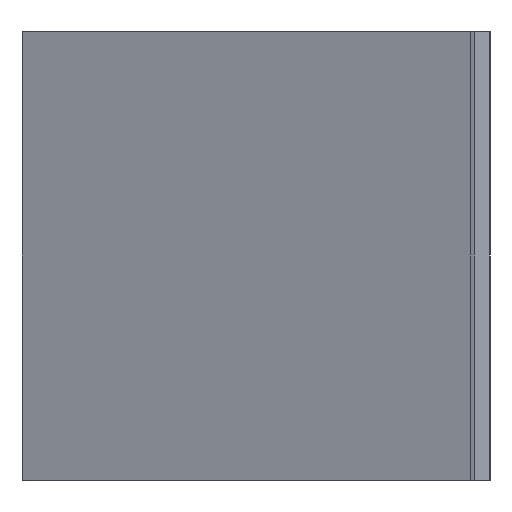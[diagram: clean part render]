
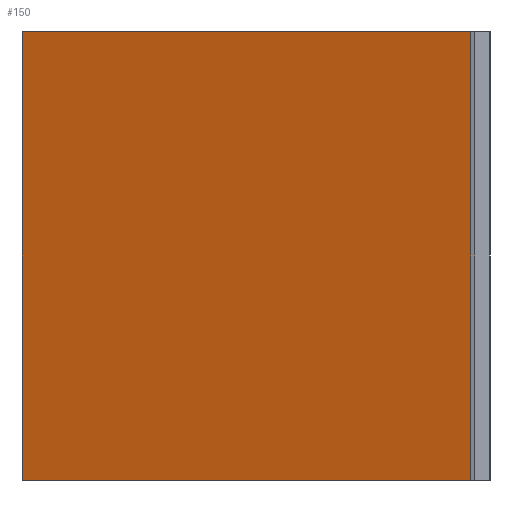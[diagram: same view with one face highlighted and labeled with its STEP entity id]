
A CAD part, left-side view. The second image highlights one B-rep face of the part: STEP entity #150.
In plain terms, the highlighted planar face has unit normal (0.939, -0.345, 0).
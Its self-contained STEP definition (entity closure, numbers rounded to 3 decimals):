
#98=CARTESIAN_POINT('Vertex',(20.,0.,0.)) ;
#101=CARTESIAN_POINT('Line Origine',(20.,0.,58.5)) ;
#105=CARTESIAN_POINT('Vertex',(20.,0.,117.)) ;
#120=CARTESIAN_POINT('Axis2P3D Location',(20.,0.,0.)) ;
#125=CARTESIAN_POINT('Line Origine',(41.5,58.5,0.)) ;
#129=CARTESIAN_POINT('Vertex',(63.,117.,0.)) ;
#132=CARTESIAN_POINT('Line Origine',(63.,117.,58.5)) ;
#136=CARTESIAN_POINT('Vertex',(63.,117.,117.)) ;
#139=CARTESIAN_POINT('Line Origine',(41.5,58.5,117.)) ;
#102=DIRECTION('Vector Direction',(0.,0.,1.)) ;
#121=DIRECTION('Axis2P3D Direction',(0.939,-0.345,0.)) ;
#122=DIRECTION('Axis2P3D XDirection',(0.345,0.939,0.)) ;
#126=DIRECTION('Vector Direction',(0.345,0.939,0.)) ;
#133=DIRECTION('Vector Direction',(0.,0.,1.)) ;
#140=DIRECTION('Vector Direction',(0.345,0.939,0.)) ;
#123=AXIS2_PLACEMENT_3D('Plane Axis2P3D',#120,#121,#122) ;
#145=ORIENTED_EDGE('',*,*,#107,.F.) ;
#146=ORIENTED_EDGE('',*,*,#131,.T.) ;
#147=ORIENTED_EDGE('',*,*,#138,.T.) ;
#148=ORIENTED_EDGE('',*,*,#143,.F.) ;
#103=VECTOR('Line Direction',#102,1.) ;
#127=VECTOR('Line Direction',#126,1.) ;
#134=VECTOR('Line Direction',#133,1.) ;
#141=VECTOR('Line Direction',#140,1.) ;
#150=ADVANCED_FACE('Extrude.1',(#149),#124,.T.) ;
#107=EDGE_CURVE('',#99,#106,#104,.T.) ;
#131=EDGE_CURVE('',#99,#130,#128,.T.) ;
#138=EDGE_CURVE('',#130,#137,#135,.T.) ;
#143=EDGE_CURVE('',#106,#137,#142,.T.) ;
#144=EDGE_LOOP('',(#145,#146,#147,#148)) ;
#149=FACE_OUTER_BOUND('',#144,.T.) ;
#104=LINE('Line',#101,#103) ;
#128=LINE('Line',#125,#127) ;
#135=LINE('Line',#132,#134) ;
#142=LINE('Line',#139,#141) ;
#124=PLANE('',#123) ;
#99=VERTEX_POINT('',#98) ;
#106=VERTEX_POINT('',#105) ;
#130=VERTEX_POINT('',#129) ;
#137=VERTEX_POINT('',#136) ;
